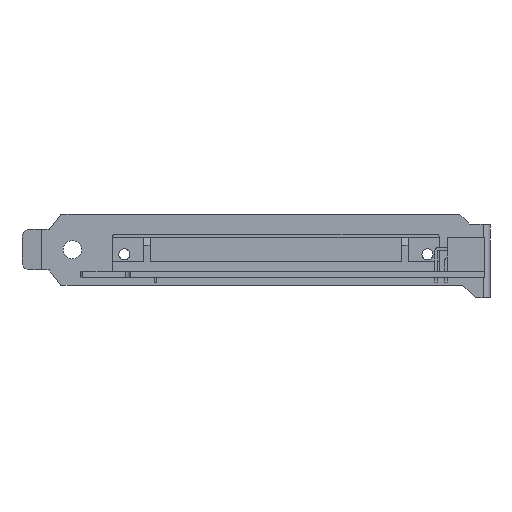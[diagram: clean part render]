
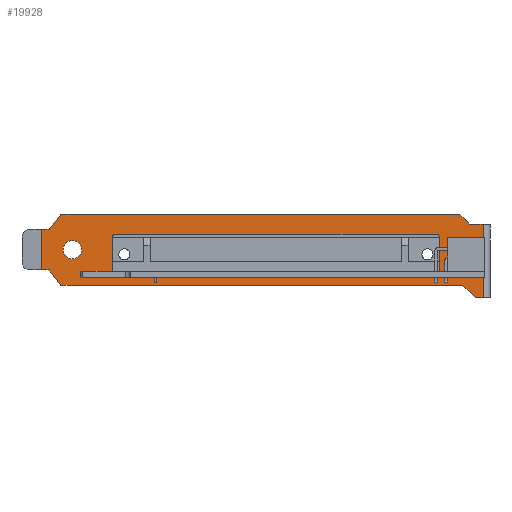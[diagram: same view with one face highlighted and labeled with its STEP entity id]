
A CAD part, left-side view. The second image highlights one B-rep face of the part: STEP entity #19928.
In plain terms, the highlighted planar face has unit normal (-1, 0, 0).
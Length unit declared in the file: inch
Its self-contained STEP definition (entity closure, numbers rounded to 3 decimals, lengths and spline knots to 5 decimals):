
#6394=DIRECTION('',(0.,0.,1.));
#6395=VECTOR('',#6394,0.412);
#6396=CARTESIAN_POINT('',(0.045,0.573,0.0745));
#6397=LINE('',#6396,#6395);
#6398=DIRECTION('',(0.,-1.,0.));
#6399=VECTOR('',#6398,0.074);
#6400=CARTESIAN_POINT('',(0.045,0.573,0.4865));
#6401=LINE('',#6400,#6399);
#6402=DIRECTION('',(0.,0.616,-0.788));
#6403=VECTOR('',#6402,0.1967);
#6404=CARTESIAN_POINT('',(0.045,0.3779,0.6415));
#6405=LINE('',#6404,#6403);
#6406=DIRECTION('',(0.,0.707,0.707));
#6407=VECTOR('',#6406,0.14142);
#6408=CARTESIAN_POINT('',(0.045,-3.774,0.5415));
#6409=LINE('',#6408,#6407);
#6410=DIRECTION('',(0.,1.,0.));
#6411=VECTOR('',#6410,0.137);
#6412=CARTESIAN_POINT('',(0.045,-3.911,0.5415));
#6413=LINE('',#6412,#6411);
#6414=DIRECTION('',(0.,0.,-1.));
#6415=VECTOR('',#6414,0.75);
#6416=CARTESIAN_POINT('',(0.045,-3.911,0.5415));
#6417=LINE('',#6416,#6415);
#6418=DIRECTION('',(0.,-0.707,-0.707));
#6419=VECTOR('',#6418,0.18102);
#6420=CARTESIAN_POINT('',(0.045,-3.705,-0.0805));
#6421=LINE('',#6420,#6419);
#6422=DIRECTION('',(0.,-1.,0.));
#6423=VECTOR('',#6422,4.0829);
#6424=CARTESIAN_POINT('',(0.045,0.3779,-0.0805));
#6425=LINE('',#6424,#6423);
#6426=DIRECTION('',(0.,-0.616,-0.788));
#6427=VECTOR('',#6426,0.1967);
#6428=CARTESIAN_POINT('',(0.045,0.499,0.0745));
#6429=LINE('',#6428,#6427);
#6430=DIRECTION('',(0.,-1.,0.));
#6431=VECTOR('',#6430,0.074);
#6432=CARTESIAN_POINT('',(0.045,0.573,0.0745));
#6433=LINE('',#6432,#6431);
#6434=CARTESIAN_POINT('',(0.045,0.262,0.2805));
#6435=DIRECTION('',(1.,0.,0.));
#6436=DIRECTION('',(0.,1.,0.));
#6437=AXIS2_PLACEMENT_3D('',#6434,#6435,#6436);
#6439=CARTESIAN_POINT('',(0.045,0.262,0.2805));
#6440=DIRECTION('',(1.,0.,0.));
#6441=DIRECTION('',(0.,-1.,0.));
#6442=AXIS2_PLACEMENT_3D('',#6439,#6440,#6441);
#6444=DIRECTION('',(0.,-1.,0.));
#6445=VECTOR('',#6444,3.275);
#6446=CARTESIAN_POINT('',(0.045,-0.1685,0.03));
#6447=LINE('',#6446,#6445);
#6448=CARTESIAN_POINT('',(0.045,-3.4435,0.05));
#6449=DIRECTION('',(-1.,0.,0.));
#6450=DIRECTION('',(0.,0.,-1.));
#6451=AXIS2_PLACEMENT_3D('',#6448,#6449,#6450);
#6453=DIRECTION('',(0.,0.,1.));
#6454=VECTOR('',#6453,0.366);
#6455=CARTESIAN_POINT('',(0.045,-3.4635,0.05));
#6456=LINE('',#6455,#6454);
#6457=CARTESIAN_POINT('',(0.045,-3.4435,0.416));
#6458=DIRECTION('',(1.,0.,0.));
#6459=DIRECTION('',(0.,0.,1.));
#6460=AXIS2_PLACEMENT_3D('',#6457,#6458,#6459);
#6462=DIRECTION('',(0.,-1.,0.));
#6463=VECTOR('',#6462,3.275);
#6464=CARTESIAN_POINT('',(0.045,-0.1685,0.436));
#6465=LINE('',#6464,#6463);
#6466=CARTESIAN_POINT('',(0.045,-0.1685,0.416));
#6467=DIRECTION('',(-1.,0.,0.));
#6468=DIRECTION('',(0.,0.,1.));
#6469=AXIS2_PLACEMENT_3D('',#6466,#6467,#6468);
#6471=DIRECTION('',(0.,0.,1.));
#6472=VECTOR('',#6471,0.366);
#6473=CARTESIAN_POINT('',(0.045,-0.1485,0.05));
#6474=LINE('',#6473,#6472);
#6475=CARTESIAN_POINT('',(0.045,-0.1685,0.05));
#6476=DIRECTION('',(1.,0.,0.));
#6477=DIRECTION('',(0.,0.,-1.));
#6478=AXIS2_PLACEMENT_3D('',#6475,#6476,#6477);
#6526=DIRECTION('',(0.,1.,0.));
#6527=VECTOR('',#6526,0.078);
#6528=CARTESIAN_POINT('',(0.045,-3.911,-0.2085));
#6529=LINE('',#6528,#6527);
#6864=DIRECTION('',(0.,1.,0.));
#6865=VECTOR('',#6864,4.0519);
#6866=CARTESIAN_POINT('',(0.045,-3.674,0.6415));
#6867=LINE('',#6866,#6865);
#8686=CARTESIAN_POINT('',(0.045,-3.911,-0.2085));
#8688=VERTEX_POINT('',#8686);
#8689=CARTESIAN_POINT('',(0.045,-3.911,0.5415));
#8691=VERTEX_POINT('',#8689);
#8693=CARTESIAN_POINT('',(0.045,-3.774,0.5415));
#8694=VERTEX_POINT('',#8693);
#8695=CARTESIAN_POINT('',(0.045,-3.674,0.6415));
#8696=VERTEX_POINT('',#8695);
#8697=CARTESIAN_POINT('',(0.045,0.499,0.0745));
#8698=CARTESIAN_POINT('',(0.045,0.3779,-0.0805));
#8699=VERTEX_POINT('',#8697);
#8700=VERTEX_POINT('',#8698);
#8701=CARTESIAN_POINT('',(0.045,-3.705,-0.0805));
#8702=VERTEX_POINT('',#8701);
#8703=CARTESIAN_POINT('',(0.045,-3.833,-0.2085));
#8704=VERTEX_POINT('',#8703);
#8705=CARTESIAN_POINT('',(0.045,0.3779,0.6415));
#8706=CARTESIAN_POINT('',(0.045,0.499,0.4865));
#8707=VERTEX_POINT('',#8705);
#8708=VERTEX_POINT('',#8706);
#8817=CARTESIAN_POINT('',(0.045,0.3555,0.2805));
#8818=CARTESIAN_POINT('',(0.045,0.1685,0.2805));
#8819=VERTEX_POINT('',#8817);
#8820=VERTEX_POINT('',#8818);
#8821=CARTESIAN_POINT('',(0.045,0.573,0.0745));
#8822=VERTEX_POINT('',#8821);
#8823=CARTESIAN_POINT('',(0.045,0.573,0.4865));
#8824=VERTEX_POINT('',#8823);
#9021=CARTESIAN_POINT('',(0.045,-0.1685,0.03));
#9022=CARTESIAN_POINT('',(0.045,-3.4435,0.03));
#9023=VERTEX_POINT('',#9021);
#9024=VERTEX_POINT('',#9022);
#9025=CARTESIAN_POINT('',(0.045,-0.1685,0.436));
#9026=CARTESIAN_POINT('',(0.045,-3.4435,0.436));
#9027=VERTEX_POINT('',#9025);
#9028=VERTEX_POINT('',#9026);
#9029=CARTESIAN_POINT('',(0.045,-0.1485,0.05));
#9030=CARTESIAN_POINT('',(0.045,-0.1485,0.416));
#9031=VERTEX_POINT('',#9029);
#9032=VERTEX_POINT('',#9030);
#9033=CARTESIAN_POINT('',(0.045,-3.4635,0.05));
#9034=CARTESIAN_POINT('',(0.045,-3.4635,0.416));
#9035=VERTEX_POINT('',#9033);
#9036=VERTEX_POINT('',#9034);
#19876=CARTESIAN_POINT('',(0.045,-3.911,0.6415));
#19877=DIRECTION('',(1.,0.,0.));
#19878=DIRECTION('',(0.,1.,0.));
#19879=AXIS2_PLACEMENT_3D('',#19876,#19877,#19878);
#19880=PLANE('',#19879);
#19882=ORIENTED_EDGE('',*,*,#19881,.T.);
#19884=ORIENTED_EDGE('',*,*,#19883,.T.);
#19886=ORIENTED_EDGE('',*,*,#19885,.F.);
#19888=ORIENTED_EDGE('',*,*,#19887,.F.);
#19890=ORIENTED_EDGE('',*,*,#19889,.F.);
#19892=ORIENTED_EDGE('',*,*,#19891,.F.);
#19894=ORIENTED_EDGE('',*,*,#19893,.T.);
#19896=ORIENTED_EDGE('',*,*,#19895,.T.);
#19898=ORIENTED_EDGE('',*,*,#19897,.F.);
#19900=ORIENTED_EDGE('',*,*,#19899,.F.);
#19902=ORIENTED_EDGE('',*,*,#19901,.F.);
#19904=ORIENTED_EDGE('',*,*,#19903,.F.);
#19905=EDGE_LOOP('',(#19882,#19884,#19886,#19888,#19890,#19892,#19894,#19896,
#19898,#19900,#19902,#19904));
#19906=FACE_OUTER_BOUND('',#19905,.F.);
#19908=ORIENTED_EDGE('',*,*,#19907,.F.);
#19910=ORIENTED_EDGE('',*,*,#19909,.F.);
#19911=EDGE_LOOP('',(#19908,#19910));
#19912=FACE_BOUND('',#19911,.F.);
#19914=ORIENTED_EDGE('',*,*,#19913,.T.);
#19916=ORIENTED_EDGE('',*,*,#19915,.T.);
#19917=ORIENTED_EDGE('',*,*,#19778,.T.);
#19919=ORIENTED_EDGE('',*,*,#19918,.F.);
#19921=ORIENTED_EDGE('',*,*,#19920,.F.);
#19923=ORIENTED_EDGE('',*,*,#19922,.T.);
#19924=ORIENTED_EDGE('',*,*,#19829,.F.);
#19925=ORIENTED_EDGE('',*,*,#19867,.F.);
#19926=EDGE_LOOP('',(#19914,#19916,#19917,#19919,#19921,#19923,#19924,#19925));
#19927=FACE_BOUND('',#19926,.F.);
#19928=ADVANCED_FACE('',(#19906,#19912,#19927),#19880,.F.);
#6438=CIRCLE('',#6437,0.0935);
#6443=CIRCLE('',#6442,0.0935);
#6452=CIRCLE('',#6451,0.02);
#6461=CIRCLE('',#6460,0.02);
#6470=CIRCLE('',#6469,0.02);
#6479=CIRCLE('',#6478,0.02);
#19778=EDGE_CURVE('',#9035,#9036,#6456,.T.);
#19829=EDGE_CURVE('',#9031,#9032,#6474,.T.);
#19867=EDGE_CURVE('',#9023,#9031,#6479,.T.);
#19881=EDGE_CURVE('',#8822,#8824,#6397,.T.);
#19883=EDGE_CURVE('',#8824,#8708,#6401,.T.);
#19885=EDGE_CURVE('',#8707,#8708,#6405,.T.);
#19887=EDGE_CURVE('',#8696,#8707,#6867,.T.);
#19889=EDGE_CURVE('',#8694,#8696,#6409,.T.);
#19891=EDGE_CURVE('',#8691,#8694,#6413,.T.);
#19893=EDGE_CURVE('',#8691,#8688,#6417,.T.);
#19895=EDGE_CURVE('',#8688,#8704,#6529,.T.);
#19897=EDGE_CURVE('',#8702,#8704,#6421,.T.);
#19899=EDGE_CURVE('',#8700,#8702,#6425,.T.);
#19901=EDGE_CURVE('',#8699,#8700,#6429,.T.);
#19903=EDGE_CURVE('',#8822,#8699,#6433,.T.);
#19907=EDGE_CURVE('',#8819,#8820,#6438,.T.);
#19909=EDGE_CURVE('',#8820,#8819,#6443,.T.);
#19913=EDGE_CURVE('',#9023,#9024,#6447,.T.);
#19915=EDGE_CURVE('',#9024,#9035,#6452,.T.);
#19918=EDGE_CURVE('',#9028,#9036,#6461,.T.);
#19920=EDGE_CURVE('',#9027,#9028,#6465,.T.);
#19922=EDGE_CURVE('',#9027,#9032,#6470,.T.);
